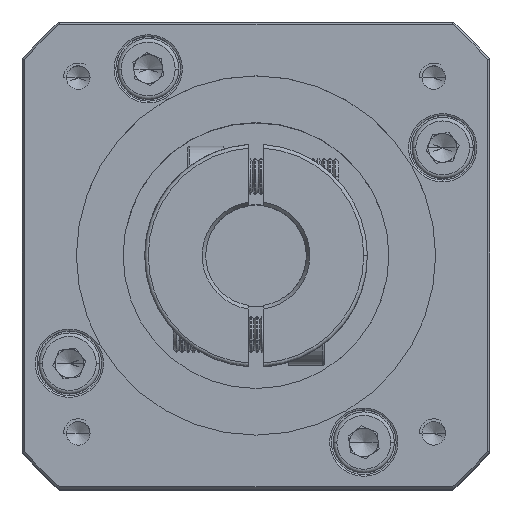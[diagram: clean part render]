
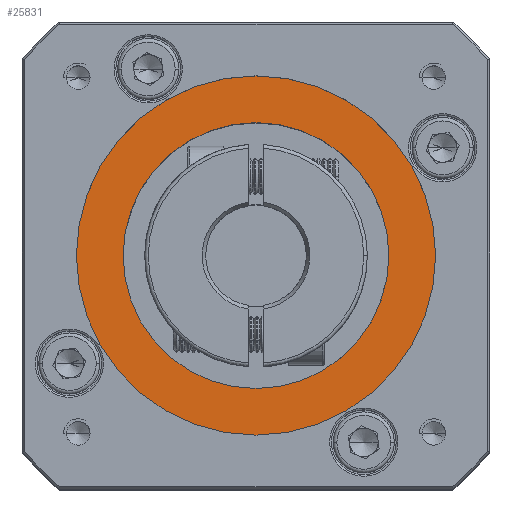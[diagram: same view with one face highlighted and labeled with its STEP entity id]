
A CAD part, top view. The second image highlights one B-rep face of the part: STEP entity #25831.
In plain terms, the highlighted planar face has unit normal (0, 0, 1).
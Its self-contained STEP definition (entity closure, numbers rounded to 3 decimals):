
#674 = ORIENTED_EDGE ( 'NONE', *, *, #34177, .T. ) ;
#1331 = FACE_OUTER_BOUND ( 'NONE', #87780, .T. ) ;
#7802 = CARTESIAN_POINT ( 'NONE',  ( -45.09, 29.291, 0.97 ) ) ;
#9064 = VERTEX_POINT ( 'NONE', #99912 ) ;
#12057 = CARTESIAN_POINT ( 'NONE',  ( -45.09, 29.291, 0.97 ) ) ;
#16874 = AXIS2_PLACEMENT_3D ( 'NONE', #107463, #78750, #88292 ) ;
#20841 = ORIENTED_EDGE ( 'NONE', *, *, #22495, .T. ) ;
#22495 = EDGE_CURVE ( 'NONE', #9064, #78290, #74970, .T. ) ;
#25508 = CIRCLE ( 'NONE', #16874, 25. ) ;
#25831 = ADVANCED_FACE ( 'NONE', ( #1331, #45964 ), #31595, .T. ) ;
#26209 = CIRCLE ( 'NONE', #53348, 18.5 ) ;
#31595 = PLANE ( 'NONE',  #108470 ) ;
#33305 = EDGE_CURVE ( 'NONE', #87115, #49690, #87191, .T. ) ;
#33389 = CARTESIAN_POINT ( 'NONE',  ( -63.59, 29.291, 0.97 ) ) ;
#33465 = DIRECTION ( 'NONE',  ( 1., 0., 0. ) ) ;
#34177 = EDGE_CURVE ( 'NONE', #49690, #87115, #25508, .T. ) ;
#35334 = DIRECTION ( 'NONE',  ( 0., 0., -1. ) ) ;
#37296 = CARTESIAN_POINT ( 'NONE',  ( -20.09, 29.291, 0.97 ) ) ;
#41964 = DIRECTION ( 'NONE',  ( 1., 0., 0. ) ) ;
#45726 = DIRECTION ( 'NONE',  ( 1., 0., 0. ) ) ;
#45964 = FACE_BOUND ( 'NONE', #89564, .T. ) ;
#47482 = AXIS2_PLACEMENT_3D ( 'NONE', #7802, #75264, #67338 ) ;
#49690 = VERTEX_POINT ( 'NONE', #37296 ) ;
#53002 = CARTESIAN_POINT ( 'NONE',  ( -45.09, 29.291, 0.97 ) ) ;
#53348 = AXIS2_PLACEMENT_3D ( 'NONE', #102825, #35334, #45726 ) ;
#61571 = EDGE_CURVE ( 'NONE', #78290, #9064, #26209, .T. ) ;
#67338 = DIRECTION ( 'NONE',  ( 1., 0., 0. ) ) ;
#74970 = CIRCLE ( 'NONE', #47482, 18.5 ) ;
#75264 = DIRECTION ( 'NONE',  ( 0., 0., -1. ) ) ;
#78290 = VERTEX_POINT ( 'NONE', #33389 ) ;
#78591 = ORIENTED_EDGE ( 'NONE', *, *, #33305, .T. ) ;
#78750 = DIRECTION ( 'NONE',  ( 0., 0., 1. ) ) ;
#80528 = AXIS2_PLACEMENT_3D ( 'NONE', #53002, #90544, #33465 ) ;
#87115 = VERTEX_POINT ( 'NONE', #123285 ) ;
#87191 = CIRCLE ( 'NONE', #80528, 25. ) ;
#87780 = EDGE_LOOP ( 'NONE', ( #674, #78591 ) ) ;
#88292 = DIRECTION ( 'NONE',  ( 1., 0., 0. ) ) ;
#89564 = EDGE_LOOP ( 'NONE', ( #20841, #112418 ) ) ;
#90544 = DIRECTION ( 'NONE',  ( 0., 0., 1. ) ) ;
#97406 = DIRECTION ( 'NONE',  ( 0., 0., 1. ) ) ;
#99912 = CARTESIAN_POINT ( 'NONE',  ( -26.59, 29.291, 0.97 ) ) ;
#102825 = CARTESIAN_POINT ( 'NONE',  ( -45.09, 29.291, 0.97 ) ) ;
#107463 = CARTESIAN_POINT ( 'NONE',  ( -45.09, 29.291, 0.97 ) ) ;
#108470 = AXIS2_PLACEMENT_3D ( 'NONE', #12057, #97406, #41964 ) ;
#112418 = ORIENTED_EDGE ( 'NONE', *, *, #61571, .T. ) ;
#123285 = CARTESIAN_POINT ( 'NONE',  ( -70.09, 29.291, 0.97 ) ) ;
